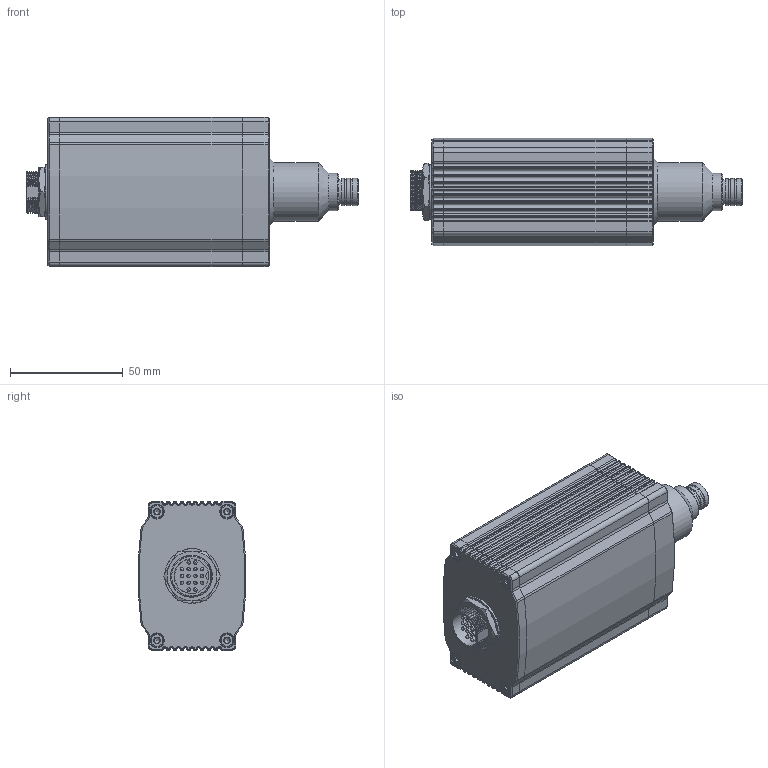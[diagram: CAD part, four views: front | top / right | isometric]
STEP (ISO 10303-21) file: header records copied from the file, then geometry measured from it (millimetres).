
FILE_DESCRIPTION(/* description */ (''),/* implementation_level */ '2;1');
FILE_NAME(/* name */ 'FS1005DC-HE.stp',/* time_stamp */ '2023-09-21T21:00:05+08:00',/* author */ (''),/* organization */ (''),/* preprocessor_version */ 'ST-DEVELOPER v16.7',/* originating_system */ 'SIEMENS PLM Software NX 12.0',/* authorisation */ '');
FILE_SCHEMA (('AUTOMOTIVE_DESIGN { 1 0 10303 214 3 1 1 1 }'));
Length unit declared in the file: millimetre
Products named in the file (1): Admi71E0876Fbsr1
Bounding box: 147.02 x 47.68 x 66 mm (x, y, z)
Volume: 206901.9 mm3; surface area: 83943.5 mm2
Topology: 19 solids, 21 shells, 1044 faces, 2632 edges, 1606 vertices
Faces by surface type: cylinder 397, plane 356, cone 221, bspline 34, torus 20, sphere 16
Full cylindrical faces by diameter (mm): 1.5 x16, 3 x8, 3.1 x2, 3.3 x2, 3.5 x8, 3.838 x2, 4 x1, 4.2 x2, 5.86 x8, 6 x8, 6.5 x1, 7 x2, 7.5 x2, 7.6 x2, 8 x1, 8.2 x1, 10 x1, 11 x3, 12 x3, 15 x1, 15.4 x1, 16.2 x1, 16.5 x1, 18 x2, 19 x1, 22.6 x1, 24.2 x1, 26 x1, 29.95 x1, 30 x2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
Entity records: 63889 total; most frequent: CARTESIAN_POINT 40350, DIRECTION 4931, ORIENTED_EDGE 4574, EDGE_CURVE 2291, AXIS2_PLACEMENT_3D 1921, VERTEX_POINT 1510, EDGE_LOOP 1285, LINE 1089
